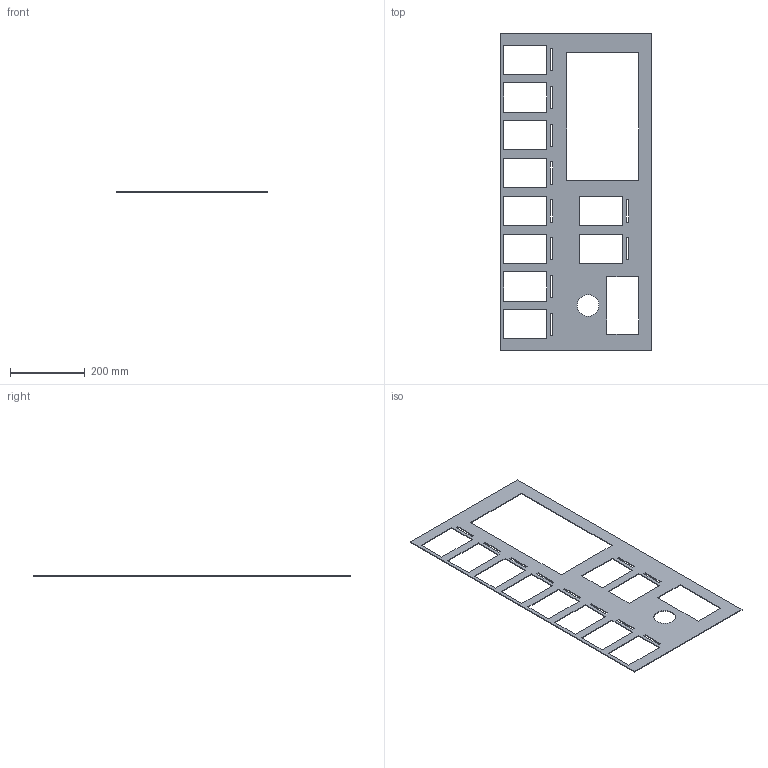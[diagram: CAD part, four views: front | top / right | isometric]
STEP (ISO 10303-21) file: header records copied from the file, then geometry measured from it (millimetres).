
FILE_DESCRIPTION(('Open CASCADE Model'),'2;1');
FILE_NAME('Open CASCADE Shape Model','2026-08-18T02:02:55',('Author'),( 'Open CASCADE'),'Open CASCADE STEP processor 7.9','Open CASCADE 7.9' ,'Unknown');
FILE_SCHEMA(('AUTOMOTIVE_DESIGN { 1 0 10303 214 1 1 1 1 }'));
Length unit declared in the file: millimetre
Products named in the file (1): Open CASCADE STEP translator 7.9 2
Bounding box: 406.64 x 849.8 x 2 mm (x, y, z)
Volume: 338978.2 mm3; surface area: 357865.7 mm2
Topology: 1 solids, 1 shells, 95 faces, 279 edges, 186 vertices
Faces by surface type: plane 94, cylinder 1
Full cylindrical faces by diameter (mm): 58 x1
Entity records: 6478 total; most frequent: CARTESIAN_POINT 1483, DIRECTION 677, ORIENTED_EDGE 558, PCURVE 558, DEFINITIONAL_REPRESENTATION 558, LINE 481, VECTOR 481, B_SPLINE_CURVE_WITH_KNOTS 352
